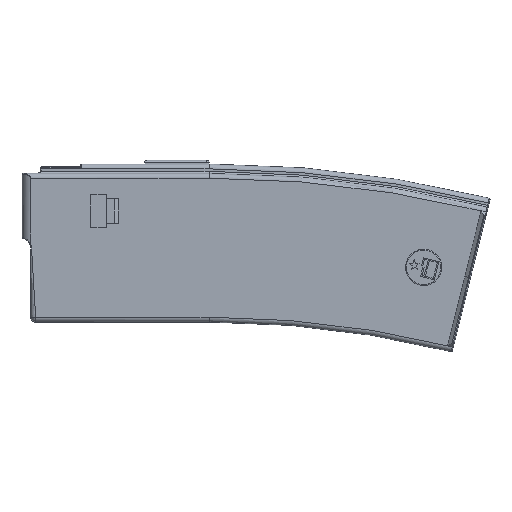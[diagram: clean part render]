
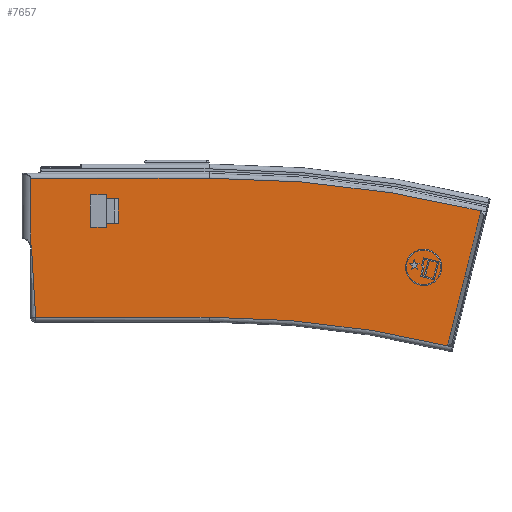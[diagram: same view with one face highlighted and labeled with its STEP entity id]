
A CAD part, left-side view. The second image highlights one B-rep face of the part: STEP entity #7657.
In plain terms, the highlighted planar face has unit normal (-1, 0, 0).
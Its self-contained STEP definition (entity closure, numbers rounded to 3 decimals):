
#189=FACE_BOUND('',#1417,.T.);
#233=CIRCLE('',#8212,469.595);
#234=CIRCLE('',#8213,412.856);
#235=CIRCLE('',#8214,0.508);
#236=CIRCLE('',#8215,0.508);
#237=CIRCLE('',#8216,0.508);
#238=CIRCLE('',#8217,0.508);
#595=B_SPLINE_CURVE_WITH_KNOTS('',3,(#13382,#13383,#13384,#13385,#13386,
#13387),.UNSPECIFIED.,.F.,.F.,(4,2,4),(0.,0.94,1.),
 .UNSPECIFIED.);
#596=B_SPLINE_CURVE_WITH_KNOTS('',3,(#13389,#13390,#13391,#13392),
 .UNSPECIFIED.,.F.,.F.,(4,4),(0.,1.),.UNSPECIFIED.);
#938=FACE_OUTER_BOUND('',#1416,.T.);
#1416=EDGE_LOOP('',(#5354,#5355,#5356,#5357,#5358,#5359,#5360,#5361,#5362,
#5363,#5364));
#1417=EDGE_LOOP('',(#5365,#5366,#5367,#5368,#5369,#5370,#5371,#5372,#5373,
#5374,#5375,#5376));
#2010=LINE('',#13368,#2589);
#2011=LINE('',#13370,#2590);
#2012=LINE('',#13372,#2591);
#2013=LINE('',#13374,#2592);
#2014=LINE('',#13378,#2593);
#2015=LINE('',#13380,#2594);
#2016=LINE('',#13394,#2595);
#2017=LINE('',#13398,#2596);
#2018=LINE('',#13400,#2597);
#2019=LINE('',#13402,#2598);
#2020=LINE('',#13406,#2599);
#2021=LINE('',#13410,#2600);
#2022=LINE('',#13414,#2601);
#2023=LINE('',#13418,#2602);
#2024=LINE('',#13419,#2603);
#2589=VECTOR('',#9238,1000.);
#2590=VECTOR('',#9239,1000.);
#2591=VECTOR('',#9240,1000.);
#2592=VECTOR('',#9241,1000.);
#2593=VECTOR('',#9244,1000.);
#2594=VECTOR('',#9245,1000.);
#2595=VECTOR('',#9246,1000.);
#2596=VECTOR('',#9249,1000.);
#2597=VECTOR('',#9250,1000.);
#2598=VECTOR('',#9251,1000.);
#2599=VECTOR('',#9254,1000.);
#2600=VECTOR('',#9257,1000.);
#2601=VECTOR('',#9260,1000.);
#2602=VECTOR('',#9263,1000.);
#2603=VECTOR('',#9264,1000.);
#3309=VERTEX_POINT('',#13366);
#3310=VERTEX_POINT('',#13367);
#3311=VERTEX_POINT('',#13369);
#3312=VERTEX_POINT('',#13371);
#3313=VERTEX_POINT('',#13373);
#3314=VERTEX_POINT('',#13375);
#3315=VERTEX_POINT('',#13377);
#3316=VERTEX_POINT('',#13379);
#3317=VERTEX_POINT('',#13381);
#3318=VERTEX_POINT('',#13388);
#3319=VERTEX_POINT('',#13393);
#3320=VERTEX_POINT('',#13396);
#3321=VERTEX_POINT('',#13397);
#3322=VERTEX_POINT('',#13399);
#3323=VERTEX_POINT('',#13401);
#3324=VERTEX_POINT('',#13403);
#3325=VERTEX_POINT('',#13405);
#3326=VERTEX_POINT('',#13407);
#3327=VERTEX_POINT('',#13409);
#3328=VERTEX_POINT('',#13411);
#3329=VERTEX_POINT('',#13413);
#3330=VERTEX_POINT('',#13415);
#3331=VERTEX_POINT('',#13417);
#4088=EDGE_CURVE('',#3309,#3310,#2010,.T.);
#4089=EDGE_CURVE('',#3311,#3309,#2011,.T.);
#4090=EDGE_CURVE('',#3312,#3311,#2012,.T.);
#4091=EDGE_CURVE('',#3313,#3312,#2013,.T.);
#4092=EDGE_CURVE('',#3314,#3313,#233,.T.);
#4093=EDGE_CURVE('',#3315,#3314,#2014,.T.);
#4094=EDGE_CURVE('',#3316,#3315,#2015,.T.);
#4095=EDGE_CURVE('',#3317,#3316,#595,.T.);
#4096=EDGE_CURVE('',#3318,#3317,#596,.T.);
#4097=EDGE_CURVE('',#3319,#3318,#2016,.T.);
#4098=EDGE_CURVE('',#3310,#3319,#234,.T.);
#4099=EDGE_CURVE('',#3320,#3321,#2017,.T.);
#4100=EDGE_CURVE('',#3322,#3320,#2018,.T.);
#4101=EDGE_CURVE('',#3322,#3323,#2019,.T.);
#4102=EDGE_CURVE('',#3324,#3323,#235,.T.);
#4103=EDGE_CURVE('',#3325,#3324,#2020,.T.);
#4104=EDGE_CURVE('',#3326,#3325,#236,.T.);
#4105=EDGE_CURVE('',#3327,#3326,#2021,.T.);
#4106=EDGE_CURVE('',#3328,#3327,#237,.T.);
#4107=EDGE_CURVE('',#3329,#3328,#2022,.T.);
#4108=EDGE_CURVE('',#3330,#3329,#238,.T.);
#4109=EDGE_CURVE('',#3330,#3331,#2023,.T.);
#4110=EDGE_CURVE('',#3321,#3331,#2024,.T.);
#5354=ORIENTED_EDGE('',*,*,#4088,.F.);
#5355=ORIENTED_EDGE('',*,*,#4089,.F.);
#5356=ORIENTED_EDGE('',*,*,#4090,.F.);
#5357=ORIENTED_EDGE('',*,*,#4091,.F.);
#5358=ORIENTED_EDGE('',*,*,#4092,.F.);
#5359=ORIENTED_EDGE('',*,*,#4093,.F.);
#5360=ORIENTED_EDGE('',*,*,#4094,.F.);
#5361=ORIENTED_EDGE('',*,*,#4095,.F.);
#5362=ORIENTED_EDGE('',*,*,#4096,.F.);
#5363=ORIENTED_EDGE('',*,*,#4097,.F.);
#5364=ORIENTED_EDGE('',*,*,#4098,.F.);
#5365=ORIENTED_EDGE('',*,*,#4099,.F.);
#5366=ORIENTED_EDGE('',*,*,#4100,.F.);
#5367=ORIENTED_EDGE('',*,*,#4101,.T.);
#5368=ORIENTED_EDGE('',*,*,#4102,.F.);
#5369=ORIENTED_EDGE('',*,*,#4103,.F.);
#5370=ORIENTED_EDGE('',*,*,#4104,.F.);
#5371=ORIENTED_EDGE('',*,*,#4105,.F.);
#5372=ORIENTED_EDGE('',*,*,#4106,.F.);
#5373=ORIENTED_EDGE('',*,*,#4107,.F.);
#5374=ORIENTED_EDGE('',*,*,#4108,.F.);
#5375=ORIENTED_EDGE('',*,*,#4109,.T.);
#5376=ORIENTED_EDGE('',*,*,#4110,.F.);
#7474=PLANE('',#8211);
#7657=ADVANCED_FACE('',(#938,#189),#7474,.F.);
#8211=AXIS2_PLACEMENT_3D('',#13365,#9236,#9237);
#8212=AXIS2_PLACEMENT_3D('',#13376,#9242,#9243);
#8213=AXIS2_PLACEMENT_3D('',#13395,#9247,#9248);
#8214=AXIS2_PLACEMENT_3D('',#13404,#9252,#9253);
#8215=AXIS2_PLACEMENT_3D('',#13408,#9255,#9256);
#8216=AXIS2_PLACEMENT_3D('',#13412,#9258,#9259);
#8217=AXIS2_PLACEMENT_3D('',#13416,#9261,#9262);
#9236=DIRECTION('center_axis',(1.,0.,0.));
#9237=DIRECTION('ref_axis',(0.,0.,-1.));
#9238=DIRECTION('',(0.,-0.97,-0.241));
#9239=DIRECTION('',(0.,0.241,-0.97));
#9240=DIRECTION('',(0.,0.241,-0.97));
#9241=DIRECTION('',(0.,0.241,-0.97));
#9242=DIRECTION('center_axis',(1.,0.,0.));
#9243=DIRECTION('ref_axis',(0.,-0.237,0.972));
#9244=DIRECTION('',(0.,-1.,0.));
#9245=DIRECTION('',(0.,0.,1.));
#9246=DIRECTION('',(0.,1.,0.));
#9247=DIRECTION('center_axis',(-1.,0.,0.));
#9248=DIRECTION('ref_axis',(0.,0.,
1.));
#9249=DIRECTION('',(0.,0.,1.));
#9250=DIRECTION('',(0.,-1.,0.));
#9251=DIRECTION('',(0.,0.,-1.));
#9252=DIRECTION('center_axis',(-1.,0.,0.));
#9253=DIRECTION('ref_axis',(0.,0.,-1.));
#9254=DIRECTION('',(0.,-1.,0.));
#9255=DIRECTION('center_axis',(-1.,0.,0.));
#9256=DIRECTION('ref_axis',(0.,0.,1.));
#9257=DIRECTION('',(0.,0.,-1.));
#9258=DIRECTION('center_axis',(-1.,0.,0.));
#9259=DIRECTION('ref_axis',(0.,0.,-1.));
#9260=DIRECTION('',(0.,1.,0.));
#9261=DIRECTION('center_axis',(-1.,0.,0.));
#9262=DIRECTION('ref_axis',(0.,0.,1.));
#9263=DIRECTION('',(0.,0.,-1.));
#9264=DIRECTION('',(0.,1.,0.));
#13365=CARTESIAN_POINT('Origin',(-11.252,-95.075,-10.546));
#13366=CARTESIAN_POINT('',(-11.252,-97.361,-40.009));
#13367=CARTESIAN_POINT('',(-11.252,-99.308,-40.494));
#13368=CARTESIAN_POINT('',(-11.252,-97.361,-40.009));
#13369=CARTESIAN_POINT('',(-11.252,-104.239,-12.363));
#13370=CARTESIAN_POINT('',(-11.252,-97.32,-40.175));
#13371=CARTESIAN_POINT('',(-11.252,-104.409,-11.68));
#13372=CARTESIAN_POINT('',(-11.252,-104.409,-11.68));
#13373=CARTESIAN_POINT('',(-11.252,-111.059,15.05));
#13374=CARTESIAN_POINT('',(-11.252,-107.667,1.414));
#13375=CARTESIAN_POINT('',(-11.252,0.,28.372));
#13376=CARTESIAN_POINT('Origin',(-11.252,0.,-441.223));
#13377=CARTESIAN_POINT('',(-11.252,72.682,28.372));
#13378=CARTESIAN_POINT('',(-11.252,-19.74,28.372));
#13379=CARTESIAN_POINT('',(-11.252,72.682,1.038));
#13380=CARTESIAN_POINT('',(-11.252,72.682,-6.268));
#13381=CARTESIAN_POINT('',(-11.252,72.415,-0.584));
#13382=CARTESIAN_POINT('Ctrl Pts',(-11.252,72.415,-0.584));
#13383=CARTESIAN_POINT('Ctrl Pts',(-11.252,72.415,-0.076));
#13384=CARTESIAN_POINT('Ctrl Pts',(-11.252,72.49,0.433));
#13385=CARTESIAN_POINT('Ctrl Pts',(-11.252,72.661,0.973));
#13386=CARTESIAN_POINT('Ctrl Pts',(-11.252,72.671,1.006));
#13387=CARTESIAN_POINT('Ctrl Pts',(-11.252,72.682,1.038));
#13388=CARTESIAN_POINT('',(-11.252,70.76,-28.372));
#13389=CARTESIAN_POINT('Ctrl Pts',(-11.252,70.76,-28.372));
#13390=CARTESIAN_POINT('Ctrl Pts',(-11.252,70.955,-19.109));
#13391=CARTESIAN_POINT('Ctrl Pts',(-11.252,72.415,-9.847));
#13392=CARTESIAN_POINT('Ctrl Pts',(-11.252,72.415,-0.584));
#13393=CARTESIAN_POINT('',(-11.252,0.,-28.372));
#13394=CARTESIAN_POINT('',(-11.252,-19.74,-28.372));
#13395=CARTESIAN_POINT('Origin',(-11.252,0.,
-441.228));
#13396=CARTESIAN_POINT('',(-11.252,36.982,9.893));
#13397=CARTESIAN_POINT('',(-11.252,36.982,20.053));
#13398=CARTESIAN_POINT('',(-11.252,36.982,-6.268));
#13399=CARTESIAN_POINT('',(-11.252,41.783,9.893));
#13400=CARTESIAN_POINT('',(-11.252,-19.74,9.893));
#13401=CARTESIAN_POINT('',(-11.252,41.783,8.814));
#13402=CARTESIAN_POINT('',(-11.252,41.783,14.973));
#13403=CARTESIAN_POINT('',(-11.252,42.291,8.306));
#13404=CARTESIAN_POINT('Origin',(-11.252,42.291,8.814));
#13405=CARTESIAN_POINT('',(-11.252,47.879,8.306));
#13406=CARTESIAN_POINT('',(-11.252,-19.74,8.306));
#13407=CARTESIAN_POINT('',(-11.252,48.387,8.814));
#13408=CARTESIAN_POINT('Origin',(-11.252,47.879,8.814));
#13409=CARTESIAN_POINT('',(-11.252,48.387,21.133));
#13410=CARTESIAN_POINT('',(-11.252,48.387,-6.268));
#13411=CARTESIAN_POINT('',(-11.252,47.879,21.641));
#13412=CARTESIAN_POINT('Origin',(-11.252,47.879,21.133));
#13413=CARTESIAN_POINT('',(-11.252,42.291,21.641));
#13414=CARTESIAN_POINT('',(-11.252,-19.74,21.641));
#13415=CARTESIAN_POINT('',(-11.252,41.783,21.133));
#13416=CARTESIAN_POINT('Origin',(-11.252,42.291,21.133));
#13417=CARTESIAN_POINT('',(-11.252,41.783,20.053));
#13418=CARTESIAN_POINT('',(-11.252,41.783,14.973));
#13419=CARTESIAN_POINT('',(-11.252,-19.74,20.053));
